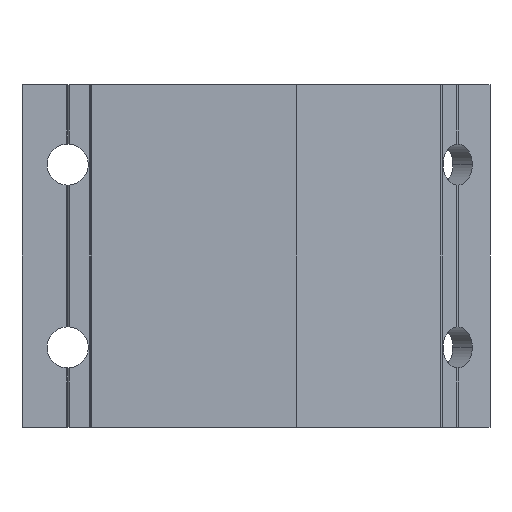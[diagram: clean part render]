
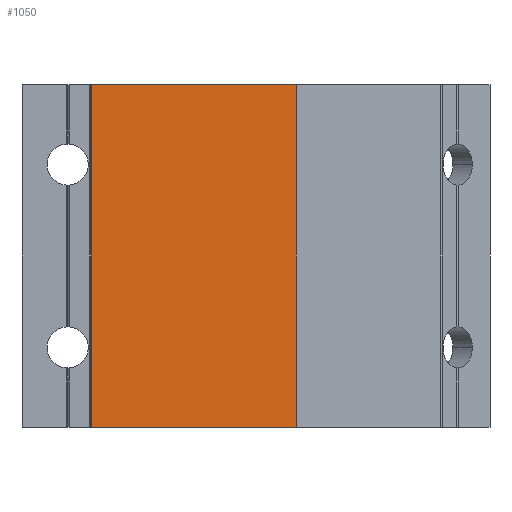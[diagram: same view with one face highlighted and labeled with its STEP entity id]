
A CAD part, front view. The second image highlights one B-rep face of the part: STEP entity #1050.
In plain terms, the highlighted planar face has unit normal (0, -1, 0).
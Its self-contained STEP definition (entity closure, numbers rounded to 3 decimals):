
#14 = LINE ( 'NONE', #1195, #1576 ) ;
#49 = ORIENTED_EDGE ( 'NONE', *, *, #2115, .F. ) ;
#84 = LINE ( 'NONE', #709, #554 ) ;
#193 = EDGE_CURVE ( 'NONE', #434, #1634, #84, .T. ) ;
#287 = DIRECTION ( 'NONE',  ( 1., 0., 0. ) ) ;
#361 = CARTESIAN_POINT ( 'NONE',  ( 0., 0., 37.5 ) ) ;
#434 = VERTEX_POINT ( 'NONE', #1185 ) ;
#456 = AXIS2_PLACEMENT_3D ( 'NONE', #999, #2141, #805 ) ;
#554 = VECTOR ( 'NONE', #1264, 1000. ) ;
#581 = FACE_OUTER_BOUND ( 'NONE', #649, .T. ) ;
#615 = VERTEX_POINT ( 'NONE', #1344 ) ;
#643 = CARTESIAN_POINT ( 'NONE',  ( 0., 0., 37.5 ) ) ;
#644 = VECTOR ( 'NONE', #1973, 1000. ) ;
#649 = EDGE_LOOP ( 'NONE', ( #2054, #49, #1093, #2105 ) ) ;
#692 = VERTEX_POINT ( 'NONE', #361 ) ;
#709 = CARTESIAN_POINT ( 'NONE',  ( 0., 0., -37.5 ) ) ;
#805 = DIRECTION ( 'NONE',  ( -1., 0., 0. ) ) ;
#817 = VECTOR ( 'NONE', #287, 1000. ) ;
#999 = CARTESIAN_POINT ( 'NONE',  ( 0., 0., 37.5 ) ) ;
#1050 = ADVANCED_FACE ( 'NONE', ( #581 ), #1197, .F. ) ;
#1093 = ORIENTED_EDGE ( 'NONE', *, *, #1445, .F. ) ;
#1150 = LINE ( 'NONE', #643, #644 ) ;
#1185 = CARTESIAN_POINT ( 'NONE',  ( -44.7, 0., -37.5 ) ) ;
#1195 = CARTESIAN_POINT ( 'NONE',  ( -44.7, 0., 37.5 ) ) ;
#1197 = PLANE ( 'NONE',  #456 ) ;
#1264 = DIRECTION ( 'NONE',  ( 1., 0., 0. ) ) ;
#1325 = EDGE_CURVE ( 'NONE', #615, #434, #14, .T. ) ;
#1335 = LINE ( 'NONE', #1901, #817 ) ;
#1344 = CARTESIAN_POINT ( 'NONE',  ( -44.7, 0., 37.5 ) ) ;
#1445 = EDGE_CURVE ( 'NONE', #615, #692, #1335, .T. ) ;
#1567 = DIRECTION ( 'NONE',  ( 0., 0., -1. ) ) ;
#1576 = VECTOR ( 'NONE', #1567, 1000. ) ;
#1634 = VERTEX_POINT ( 'NONE', #2465 ) ;
#1901 = CARTESIAN_POINT ( 'NONE',  ( 0., 0., 37.5 ) ) ;
#1973 = DIRECTION ( 'NONE',  ( 0., 0., -1. ) ) ;
#2054 = ORIENTED_EDGE ( 'NONE', *, *, #193, .T. ) ;
#2105 = ORIENTED_EDGE ( 'NONE', *, *, #1325, .T. ) ;
#2115 = EDGE_CURVE ( 'NONE', #692, #1634, #1150, .T. ) ;
#2141 = DIRECTION ( 'NONE',  ( 0., 1., 0. ) ) ;
#2465 = CARTESIAN_POINT ( 'NONE',  ( 0., 0., -37.5 ) ) ;
